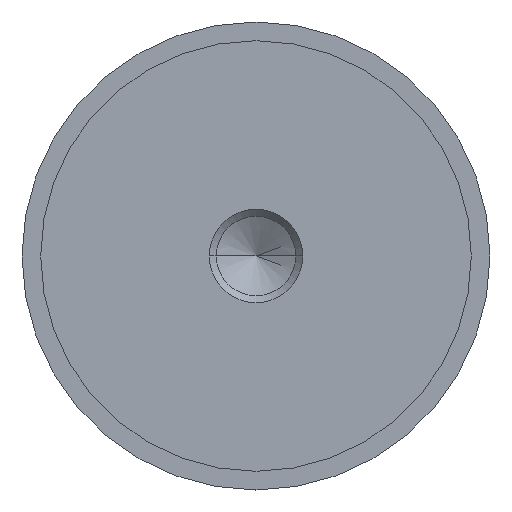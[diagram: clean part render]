
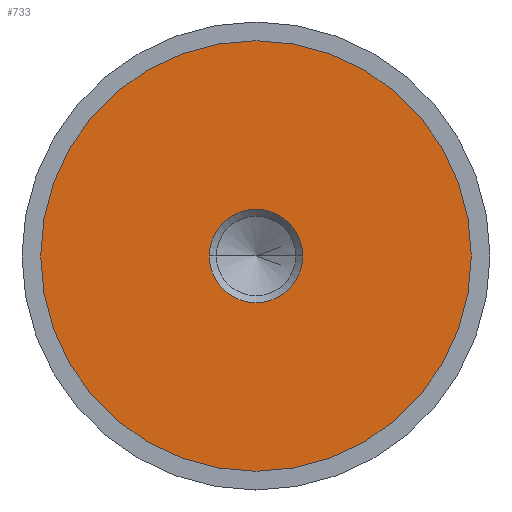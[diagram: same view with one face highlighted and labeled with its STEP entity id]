
A CAD part, left-side view. The second image highlights one B-rep face of the part: STEP entity #733.
In plain terms, the highlighted planar face has unit normal (-1, 0, 0).
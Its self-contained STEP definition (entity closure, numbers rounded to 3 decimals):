
#2 = EDGE_LOOP ( 'NONE', ( #736, #466 ) ) ;
#11 = DIRECTION ( 'NONE',  ( 1., 0., 0. ) ) ;
#15 = FACE_BOUND ( 'NONE', #516, .T. ) ;
#24 = AXIS2_PLACEMENT_3D ( 'NONE', #474, #777, #287 ) ;
#50 = VERTEX_POINT ( 'NONE', #491 ) ;
#93 = EDGE_CURVE ( 'NONE', #145, #50, #177, .T. ) ;
#103 = AXIS2_PLACEMENT_3D ( 'NONE', #133, #376, #199 ) ;
#133 = CARTESIAN_POINT ( 'NONE',  ( -17.49, 0., 0. ) ) ;
#139 = DIRECTION ( 'NONE',  ( -1., 0., 0. ) ) ;
#145 = VERTEX_POINT ( 'NONE', #196 ) ;
#177 = CIRCLE ( 'NONE', #685, 4.99 ) ;
#179 = AXIS2_PLACEMENT_3D ( 'NONE', #235, #257, #506 ) ;
#196 = CARTESIAN_POINT ( 'NONE',  ( -17.49, 4.99, 0. ) ) ;
#199 = DIRECTION ( 'NONE',  ( 0., 0., 1. ) ) ;
#218 = CIRCLE ( 'NONE', #103, 23. ) ;
#235 = CARTESIAN_POINT ( 'NONE',  ( -17.49, 23., 0. ) ) ;
#242 = CARTESIAN_POINT ( 'NONE',  ( -17.49, 0., 23. ) ) ;
#245 = CARTESIAN_POINT ( 'NONE',  ( -17.49, 0., 0. ) ) ;
#257 = DIRECTION ( 'NONE',  ( 1., 0., 0. ) ) ;
#261 = PLANE ( 'NONE',  #179 ) ;
#287 = DIRECTION ( 'NONE',  ( 0., 0., -1. ) ) ;
#319 = VERTEX_POINT ( 'NONE', #478 ) ;
#325 = CARTESIAN_POINT ( 'NONE',  ( -17.49, 0., 0. ) ) ;
#341 = VERTEX_POINT ( 'NONE', #242 ) ;
#368 = DIRECTION ( 'NONE',  ( 0., 0., -1. ) ) ;
#376 = DIRECTION ( 'NONE',  ( -1., 0., 0. ) ) ;
#384 = DIRECTION ( 'NONE',  ( 0., 0., 1. ) ) ;
#466 = ORIENTED_EDGE ( 'NONE', *, *, #553, .T. ) ;
#474 = CARTESIAN_POINT ( 'NONE',  ( -17.49, 0., 0. ) ) ;
#478 = CARTESIAN_POINT ( 'NONE',  ( -17.49, 0., -23. ) ) ;
#491 = CARTESIAN_POINT ( 'NONE',  ( -17.49, -4.99, 0. ) ) ;
#493 = FACE_OUTER_BOUND ( 'NONE', #2, .T. ) ;
#506 = DIRECTION ( 'NONE',  ( 0., 0., -1. ) ) ;
#516 = EDGE_LOOP ( 'NONE', ( #585, #544 ) ) ;
#543 = AXIS2_PLACEMENT_3D ( 'NONE', #325, #139, #384 ) ;
#544 = ORIENTED_EDGE ( 'NONE', *, *, #93, .T. ) ;
#553 = EDGE_CURVE ( 'NONE', #319, #341, #218, .T. ) ;
#585 = ORIENTED_EDGE ( 'NONE', *, *, #620, .T. ) ;
#615 = CIRCLE ( 'NONE', #24, 4.99 ) ;
#620 = EDGE_CURVE ( 'NONE', #50, #145, #615, .T. ) ;
#638 = CIRCLE ( 'NONE', #543, 23. ) ;
#685 = AXIS2_PLACEMENT_3D ( 'NONE', #245, #11, #368 ) ;
#733 = ADVANCED_FACE ( 'NONE', ( #15, #493 ), #261, .F. ) ;
#736 = ORIENTED_EDGE ( 'NONE', *, *, #771, .T. ) ;
#771 = EDGE_CURVE ( 'NONE', #341, #319, #638, .T. ) ;
#777 = DIRECTION ( 'NONE',  ( 1., 0., 0. ) ) ;
